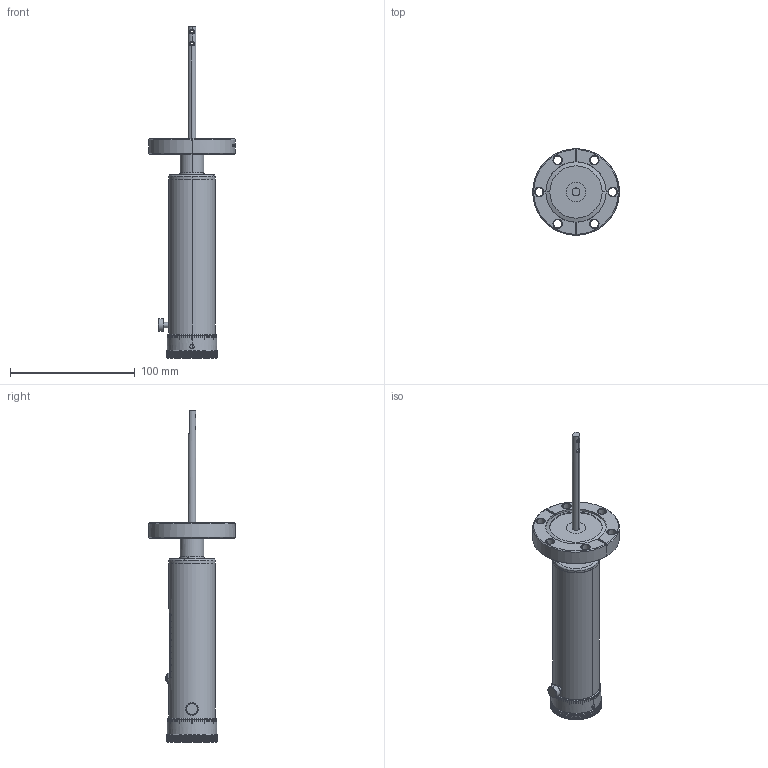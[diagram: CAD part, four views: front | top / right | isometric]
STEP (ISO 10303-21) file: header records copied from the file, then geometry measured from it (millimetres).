
FILE_DESCRIPTION (( 'STEP AP203' ), '1' );
FILE_NAME ('102230.stp', '2019-04-04T15:10:35', ( '' ), ( '' ), 'SwSTEP 2.0', 'SolidWorks 2012', '' );
FILE_SCHEMA (( 'CONFIG_CONTROL_DESIGN' ));
Products named in the file (1): 102230
Bounding box: 69.34 x 69.34 x 265.89 mm (x, y, z)
Volume: 214057 mm3; surface area: 35224.3 mm2
Topology: 1 solids, 1 shells, 1583 faces, 4618 edges, 3071 vertices
Faces by surface type: plane 923, cylinder 450, bspline 151, cone 59
Entity records: 82330 total; most frequent: CARTESIAN_POINT 41620, ORIENTED_EDGE 9232, DIRECTION 7700, EDGE_CURVE 4616, VERTEX_POINT 3071, AXIS2_PLACEMENT_3D 2745, VECTOR 2210, LINE 2210
